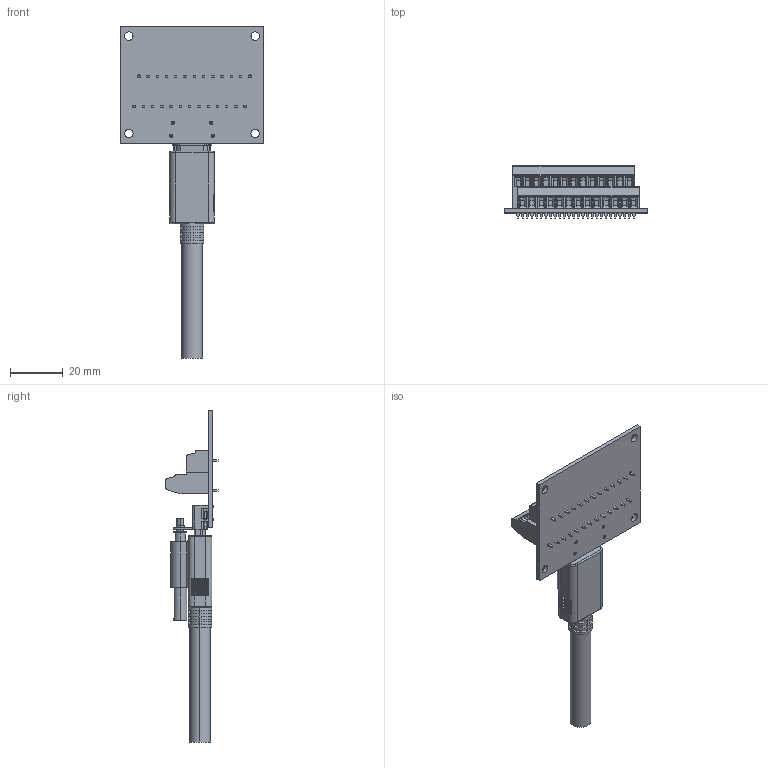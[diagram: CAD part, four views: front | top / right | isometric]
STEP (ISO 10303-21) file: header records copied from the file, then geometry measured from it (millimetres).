
FILE_DESCRIPTION((''),'2;1');
FILE_NAME('ASSY_CABLE_HDMI_BIZLINK_ASM','2012-06-08T',('sbogdan'),(''),'PRO/ENGINEER BY PARAMETRIC TECHNOLOGY CORPORATION, 2010230','PRO/ENGINEER BY PARAMETRIC TECHNOLOGY CORPORATION, 2010230','');
FILE_SCHEMA(('CONFIG_CONTROL_DESIGN'));
Products named in the file (16): OVERMOLD_HDMI_TYPEA_FOXCONN; CCA_PB_HDMI_CASSY; SP_CONN_HOUSING_19; SP_CONN_SHIELD_19; SP_CONN; 100-801001152-00_SPEED_CONN_ASM; JACKSOCKET_ROUND_348L_187539; PCB_HDMI_TB; CONN_HDMI_RA_FLANGED_FOXCONN; MKKDS_1-13-3_5-399990; MKKDS_1-13-3_5-411590_ASM; CONN_SCREW_TERM_2X13_3R5_PITCH_ASM; CCA_HDMI_TB_ASM; CABLE_HDMI_BELDEN_28AWG; KNURL_256X0787_SS; ASSY_CABLE_HDMI_BIZLINK_ASM
Assembly tree (33 placements, depth 5):
  ASSY_CABLE_HDMI_BIZLINK_ASM
    OVERMOLD_HDMI_TYPEA_FOXCONN
    CCA_PB_HDMI_CASSY
    100-801001152-00_SPEED_CONN_ASM
      SP_CONN_HOUSING_19
      SP_CONN_SHIELD_19
      SP_CONN  x19
    JACKSOCKET_ROUND_348L_187539
    CCA_HDMI_TB_ASM
      PCB_HDMI_TB
      CONN_HDMI_RA_FLANGED_FOXCONN
      CONN_SCREW_TERM_2X13_3R5_PITCH_ASM
        MKKDS_1-13-3_5-411590_ASM
          MKKDS_1-13-3_5-399990
    CABLE_HDMI_BELDEN_28AWG
    KNURL_256X0787_SS
Bounding box: 54.1 x 19.7 x 125.52 mm (x, y, z)
Volume: 20776.6 mm3; surface area: 18895.2 mm2
Topology: 29 solids, 49 shells, 3051 faces, 8393 edges, 5491 vertices
Faces by surface type: plane 2308, cylinder 682, torus 38, bspline 13, cone 10
Entity records: 77243 total; most frequent: CARTESIAN_POINT 17654, ORIENTED_EDGE 12398, DIRECTION 11844, EDGE_CURVE 6359, VECTOR 4792, LINE 4792, VERTEX_POINT 4123, AXIS2_PLACEMENT_3D 3526
